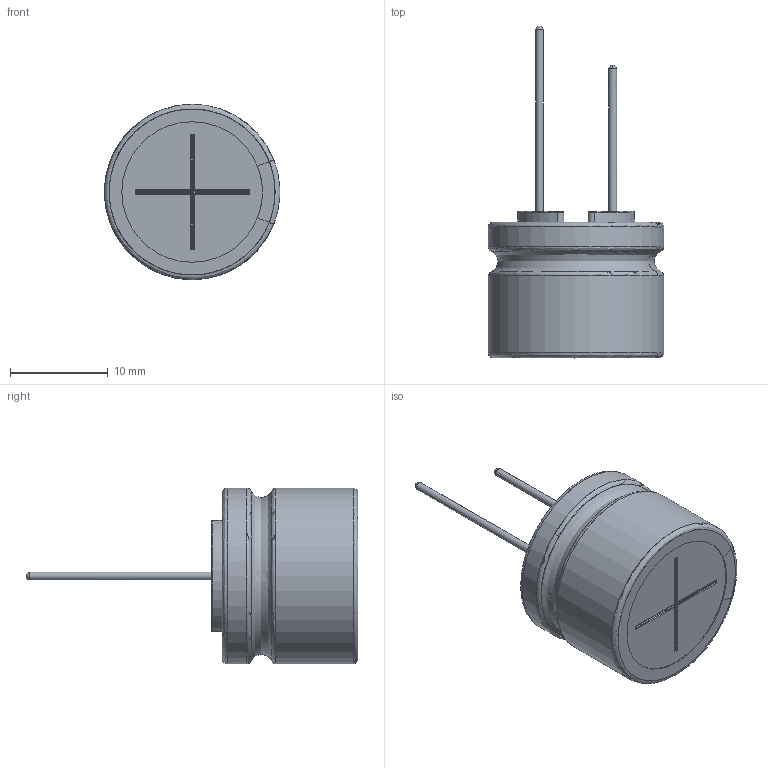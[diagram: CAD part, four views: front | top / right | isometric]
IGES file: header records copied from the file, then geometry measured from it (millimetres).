
Start section: JAMA-IS VERSION  1.0
Bounding box: 17.97 x 34 x 18 mm (x, y, z)
Surface area: 3393.3 mm2 (no closed solid volume)
Topology: 0 solids, 0 shells, 132 faces, 1531 edges, 1512 vertices
Faces by surface type: bspline 132
